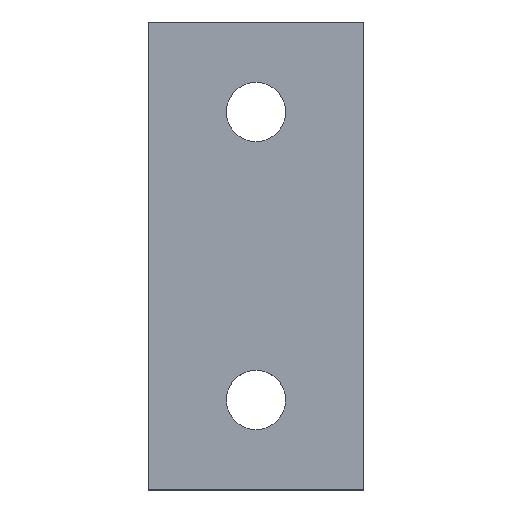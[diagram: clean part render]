
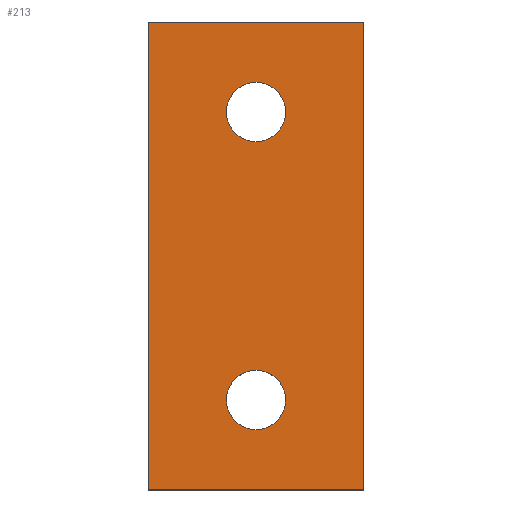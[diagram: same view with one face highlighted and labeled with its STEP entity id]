
A CAD part, top view. The second image highlights one B-rep face of the part: STEP entity #213.
In plain terms, the highlighted planar face has unit normal (0, 0, 1).
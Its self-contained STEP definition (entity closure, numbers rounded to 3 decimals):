
#24 = VERTEX_POINT('',#25);
#25 = CARTESIAN_POINT('',(14.,179.,10.));
#32 = PLANE('',#33);
#33 = AXIS2_PLACEMENT_3D('',#34,#35,#36);
#34 = CARTESIAN_POINT('',(14.,179.,6.7));
#35 = DIRECTION('',(1.,0.,0.));
#36 = DIRECTION('',(0.,0.,1.));
#44 = PLANE('',#45);
#45 = AXIS2_PLACEMENT_3D('',#46,#47,#48);
#46 = CARTESIAN_POINT('',(14.,179.,6.7));
#47 = DIRECTION('',(0.,1.,0.));
#48 = DIRECTION('',(0.,0.,1.));
#85 = VERTEX_POINT('',#86);
#86 = CARTESIAN_POINT('',(14.,205.,10.));
#100 = PLANE('',#101);
#101 = AXIS2_PLACEMENT_3D('',#102,#103,#104);
#102 = CARTESIAN_POINT('',(14.,205.,6.7));
#103 = DIRECTION('',(0.,1.,0.));
#104 = DIRECTION('',(0.,0.,1.));
#112 = EDGE_CURVE('',#24,#85,#113,.T.);
#113 = SURFACE_CURVE('',#114,(#118,#125),.PCURVE_S1.);
#114 = LINE('',#115,#116);
#115 = CARTESIAN_POINT('',(14.,179.,10.));
#116 = VECTOR('',#117,1.);
#117 = DIRECTION('',(0.,1.,0.));
#118 = PCURVE('',#32,#119);
#119 = DEFINITIONAL_REPRESENTATION('',(#120),#124);
#120 = LINE('',#121,#122);
#121 = CARTESIAN_POINT('',(3.3,0.));
#122 = VECTOR('',#123,1.);
#123 = DIRECTION('',(0.,-1.));
#124 = ( GEOMETRIC_REPRESENTATION_CONTEXT(2) 
PARAMETRIC_REPRESENTATION_CONTEXT() REPRESENTATION_CONTEXT('2D SPACE',''
  ) );
#125 = PCURVE('',#126,#131);
#126 = PLANE('',#127);
#127 = AXIS2_PLACEMENT_3D('',#128,#129,#130);
#128 = CARTESIAN_POINT('',(14.,179.,10.));
#129 = DIRECTION('',(0.,0.,1.));
#130 = DIRECTION('',(1.,0.,0.));
#131 = DEFINITIONAL_REPRESENTATION('',(#132),#136);
#132 = LINE('',#133,#134);
#133 = CARTESIAN_POINT('',(0.,0.));
#134 = VECTOR('',#135,1.);
#135 = DIRECTION('',(0.,1.));
#136 = ( GEOMETRIC_REPRESENTATION_CONTEXT(2) 
PARAMETRIC_REPRESENTATION_CONTEXT() REPRESENTATION_CONTEXT('2D SPACE',''
  ) );
#165 = EDGE_CURVE('',#24,#166,#168,.T.);
#166 = VERTEX_POINT('',#167);
#167 = CARTESIAN_POINT('',(26.,179.,10.));
#168 = SURFACE_CURVE('',#169,(#173,#180),.PCURVE_S1.);
#169 = LINE('',#170,#171);
#170 = CARTESIAN_POINT('',(14.,179.,10.));
#171 = VECTOR('',#172,1.);
#172 = DIRECTION('',(1.,0.,0.));
#173 = PCURVE('',#44,#174);
#174 = DEFINITIONAL_REPRESENTATION('',(#175),#179);
#175 = LINE('',#176,#177);
#176 = CARTESIAN_POINT('',(3.3,0.));
#177 = VECTOR('',#178,1.);
#178 = DIRECTION('',(0.,1.));
#179 = ( GEOMETRIC_REPRESENTATION_CONTEXT(2) 
PARAMETRIC_REPRESENTATION_CONTEXT() REPRESENTATION_CONTEXT('2D SPACE',''
  ) );
#180 = PCURVE('',#126,#181);
#181 = DEFINITIONAL_REPRESENTATION('',(#182),#186);
#182 = LINE('',#183,#184);
#183 = CARTESIAN_POINT('',(0.,0.));
#184 = VECTOR('',#185,1.);
#185 = DIRECTION('',(1.,0.));
#186 = ( GEOMETRIC_REPRESENTATION_CONTEXT(2) 
PARAMETRIC_REPRESENTATION_CONTEXT() REPRESENTATION_CONTEXT('2D SPACE',''
  ) );
#202 = PLANE('',#203);
#203 = AXIS2_PLACEMENT_3D('',#204,#205,#206);
#204 = CARTESIAN_POINT('',(26.,179.,6.7));
#205 = DIRECTION('',(1.,0.,0.));
#206 = DIRECTION('',(0.,0.,1.));
#213 = ADVANCED_FACE('',(#214,#262,#297),#126,.T.);
#214 = FACE_BOUND('',#215,.T.);
#215 = EDGE_LOOP('',(#216,#217,#218,#241));
#216 = ORIENTED_EDGE('',*,*,#112,.F.);
#217 = ORIENTED_EDGE('',*,*,#165,.T.);
#218 = ORIENTED_EDGE('',*,*,#219,.T.);
#219 = EDGE_CURVE('',#166,#220,#222,.T.);
#220 = VERTEX_POINT('',#221);
#221 = CARTESIAN_POINT('',(26.,205.,10.));
#222 = SURFACE_CURVE('',#223,(#227,#234),.PCURVE_S1.);
#223 = LINE('',#224,#225);
#224 = CARTESIAN_POINT('',(26.,179.,10.));
#225 = VECTOR('',#226,1.);
#226 = DIRECTION('',(0.,1.,0.));
#227 = PCURVE('',#126,#228);
#228 = DEFINITIONAL_REPRESENTATION('',(#229),#233);
#229 = LINE('',#230,#231);
#230 = CARTESIAN_POINT('',(12.,0.));
#231 = VECTOR('',#232,1.);
#232 = DIRECTION('',(0.,1.));
#233 = ( GEOMETRIC_REPRESENTATION_CONTEXT(2) 
PARAMETRIC_REPRESENTATION_CONTEXT() REPRESENTATION_CONTEXT('2D SPACE',''
  ) );
#234 = PCURVE('',#202,#235);
#235 = DEFINITIONAL_REPRESENTATION('',(#236),#240);
#236 = LINE('',#237,#238);
#237 = CARTESIAN_POINT('',(3.3,0.));
#238 = VECTOR('',#239,1.);
#239 = DIRECTION('',(0.,-1.));
#240 = ( GEOMETRIC_REPRESENTATION_CONTEXT(2) 
PARAMETRIC_REPRESENTATION_CONTEXT() REPRESENTATION_CONTEXT('2D SPACE',''
  ) );
#241 = ORIENTED_EDGE('',*,*,#242,.F.);
#242 = EDGE_CURVE('',#85,#220,#243,.T.);
#243 = SURFACE_CURVE('',#244,(#248,#255),.PCURVE_S1.);
#244 = LINE('',#245,#246);
#245 = CARTESIAN_POINT('',(14.,205.,10.));
#246 = VECTOR('',#247,1.);
#247 = DIRECTION('',(1.,0.,0.));
#248 = PCURVE('',#126,#249);
#249 = DEFINITIONAL_REPRESENTATION('',(#250),#254);
#250 = LINE('',#251,#252);
#251 = CARTESIAN_POINT('',(0.,26.));
#252 = VECTOR('',#253,1.);
#253 = DIRECTION('',(1.,0.));
#254 = ( GEOMETRIC_REPRESENTATION_CONTEXT(2) 
PARAMETRIC_REPRESENTATION_CONTEXT() REPRESENTATION_CONTEXT('2D SPACE',''
  ) );
#255 = PCURVE('',#100,#256);
#256 = DEFINITIONAL_REPRESENTATION('',(#257),#261);
#257 = LINE('',#258,#259);
#258 = CARTESIAN_POINT('',(3.3,0.));
#259 = VECTOR('',#260,1.);
#260 = DIRECTION('',(0.,1.));
#261 = ( GEOMETRIC_REPRESENTATION_CONTEXT(2) 
PARAMETRIC_REPRESENTATION_CONTEXT() REPRESENTATION_CONTEXT('2D SPACE',''
  ) );
#262 = FACE_BOUND('',#263,.T.);
#263 = EDGE_LOOP('',(#264));
#264 = ORIENTED_EDGE('',*,*,#265,.T.);
#265 = EDGE_CURVE('',#266,#266,#268,.T.);
#266 = VERTEX_POINT('',#267);
#267 = CARTESIAN_POINT('',(21.65,184.,10.));
#268 = SURFACE_CURVE('',#269,(#274,#285),.PCURVE_S1.);
#269 = CIRCLE('',#270,1.65);
#270 = AXIS2_PLACEMENT_3D('',#271,#272,#273);
#271 = CARTESIAN_POINT('',(20.,184.,10.));
#272 = DIRECTION('',(0.,0.,-1.));
#273 = DIRECTION('',(1.,0.,0.));
#274 = PCURVE('',#126,#275);
#275 = DEFINITIONAL_REPRESENTATION('',(#276),#284);
#276 = ( BOUNDED_CURVE() B_SPLINE_CURVE(2,(#277,#278,#279,#280,#281,#282
,#283),.UNSPECIFIED.,.T.,.F.) B_SPLINE_CURVE_WITH_KNOTS((1,2,2,2,2,1),(
    -2.094,0.,2.094,4.189,6.283,
8.378),.UNSPECIFIED.) CURVE() GEOMETRIC_REPRESENTATION_ITEM() 
RATIONAL_B_SPLINE_CURVE((1.,0.5,1.,0.5,1.,0.5,1.)) REPRESENTATION_ITEM(
  '') );
#277 = CARTESIAN_POINT('',(7.65,5.));
#278 = CARTESIAN_POINT('',(7.65,2.142));
#279 = CARTESIAN_POINT('',(5.175,3.571));
#280 = CARTESIAN_POINT('',(2.7,5.));
#281 = CARTESIAN_POINT('',(5.175,6.429));
#282 = CARTESIAN_POINT('',(7.65,7.858));
#283 = CARTESIAN_POINT('',(7.65,5.));
#284 = ( GEOMETRIC_REPRESENTATION_CONTEXT(2) 
PARAMETRIC_REPRESENTATION_CONTEXT() REPRESENTATION_CONTEXT('2D SPACE',''
  ) );
#285 = PCURVE('',#286,#291);
#286 = CYLINDRICAL_SURFACE('',#287,1.65);
#287 = AXIS2_PLACEMENT_3D('',#288,#289,#290);
#288 = CARTESIAN_POINT('',(20.,184.,6.6));
#289 = DIRECTION('',(-0.,-0.,-1.));
#290 = DIRECTION('',(1.,0.,0.));
#291 = DEFINITIONAL_REPRESENTATION('',(#292),#296);
#292 = LINE('',#293,#294);
#293 = CARTESIAN_POINT('',(-6.283,-3.4));
#294 = VECTOR('',#295,1.);
#295 = DIRECTION('',(1.,-0.));
#296 = ( GEOMETRIC_REPRESENTATION_CONTEXT(2) 
PARAMETRIC_REPRESENTATION_CONTEXT() REPRESENTATION_CONTEXT('2D SPACE',''
  ) );
#297 = FACE_BOUND('',#298,.T.);
#298 = EDGE_LOOP('',(#299));
#299 = ORIENTED_EDGE('',*,*,#300,.T.);
#300 = EDGE_CURVE('',#301,#301,#303,.T.);
#301 = VERTEX_POINT('',#302);
#302 = CARTESIAN_POINT('',(21.65,200.,10.));
#303 = SURFACE_CURVE('',#304,(#309,#320),.PCURVE_S1.);
#304 = CIRCLE('',#305,1.65);
#305 = AXIS2_PLACEMENT_3D('',#306,#307,#308);
#306 = CARTESIAN_POINT('',(20.,200.,10.));
#307 = DIRECTION('',(0.,0.,-1.));
#308 = DIRECTION('',(1.,0.,0.));
#309 = PCURVE('',#126,#310);
#310 = DEFINITIONAL_REPRESENTATION('',(#311),#319);
#311 = ( BOUNDED_CURVE() B_SPLINE_CURVE(2,(#312,#313,#314,#315,#316,#317
,#318),.UNSPECIFIED.,.T.,.F.) B_SPLINE_CURVE_WITH_KNOTS((1,2,2,2,2,1),(
    -2.094,0.,2.094,4.189,6.283,
8.378),.UNSPECIFIED.) CURVE() GEOMETRIC_REPRESENTATION_ITEM() 
RATIONAL_B_SPLINE_CURVE((1.,0.5,1.,0.5,1.,0.5,1.)) REPRESENTATION_ITEM(
  '') );
#312 = CARTESIAN_POINT('',(7.65,21.));
#313 = CARTESIAN_POINT('',(7.65,18.142));
#314 = CARTESIAN_POINT('',(5.175,19.571));
#315 = CARTESIAN_POINT('',(2.7,21.));
#316 = CARTESIAN_POINT('',(5.175,22.429));
#317 = CARTESIAN_POINT('',(7.65,23.858));
#318 = CARTESIAN_POINT('',(7.65,21.));
#319 = ( GEOMETRIC_REPRESENTATION_CONTEXT(2) 
PARAMETRIC_REPRESENTATION_CONTEXT() REPRESENTATION_CONTEXT('2D SPACE',''
  ) );
#320 = PCURVE('',#321,#326);
#321 = CYLINDRICAL_SURFACE('',#322,1.65);
#322 = AXIS2_PLACEMENT_3D('',#323,#324,#325);
#323 = CARTESIAN_POINT('',(20.,200.,6.6));
#324 = DIRECTION('',(-0.,-0.,-1.));
#325 = DIRECTION('',(1.,0.,0.));
#326 = DEFINITIONAL_REPRESENTATION('',(#327),#331);
#327 = LINE('',#328,#329);
#328 = CARTESIAN_POINT('',(-6.283,-3.4));
#329 = VECTOR('',#330,1.);
#330 = DIRECTION('',(1.,-0.));
#331 = ( GEOMETRIC_REPRESENTATION_CONTEXT(2) 
PARAMETRIC_REPRESENTATION_CONTEXT() REPRESENTATION_CONTEXT('2D SPACE',''
  ) );
